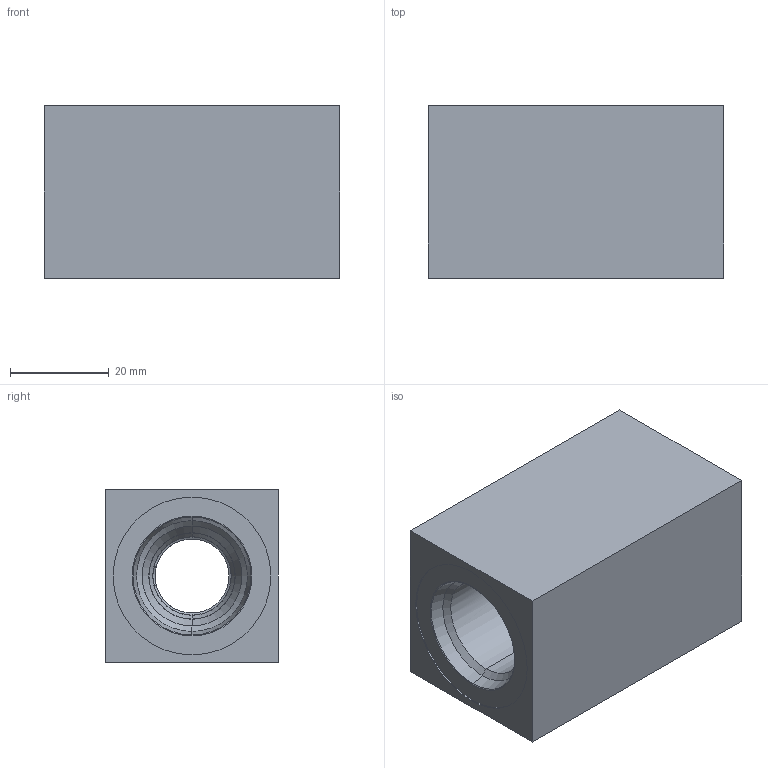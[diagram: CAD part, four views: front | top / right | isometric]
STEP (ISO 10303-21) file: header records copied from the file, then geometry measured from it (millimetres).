
FILE_DESCRIPTION (( 'STEP AP214' ), '1' );
FILE_NAME ('1-1344.4.STEP', '2017-04-26T08:03:14', ( '' ), ( '' ), 'SwSTEP 2.0', 'SolidWorks 2016', '' );
FILE_SCHEMA (( 'AUTOMOTIVE_DESIGN' ));
Length unit declared in the file: millimetre
Products named in the file (1): 1-1344.4
Bounding box: 60 x 35 x 35 mm (x, y, z)
Volume: 56895.5 mm3; surface area: 14055.6 mm2
Topology: 1 solids, 1 shells, 40 faces, 92 edges, 54 vertices
Faces by surface type: cylinder 16, cone 11, plane 7, torus 6
Entity records: 1442 total; most frequent: CARTESIAN_POINT 387, DIRECTION 208, ORIENTED_EDGE 184, EDGE_CURVE 92, AXIS2_PLACEMENT_3D 85, VERTEX_POINT 54, EDGE_LOOP 48, CIRCLE 44
